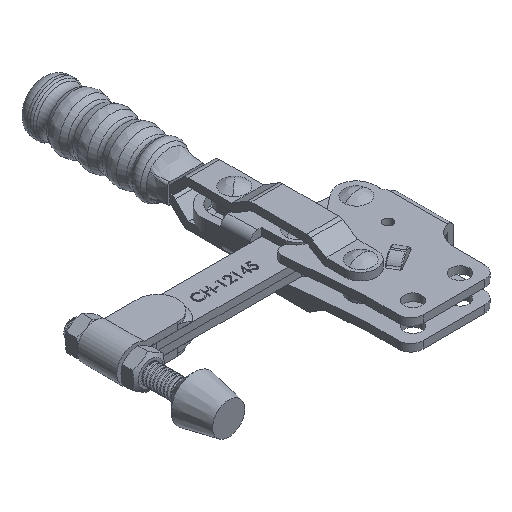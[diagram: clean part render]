
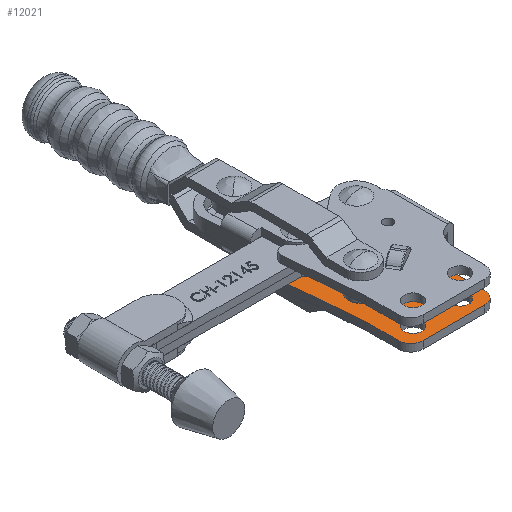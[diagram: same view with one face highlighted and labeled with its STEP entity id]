
A CAD part, isometric view. The second image highlights one B-rep face of the part: STEP entity #12021.
In plain terms, the highlighted planar face has unit normal (0, 0, 1).
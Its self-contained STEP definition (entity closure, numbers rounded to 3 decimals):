
#768=FACE_BOUND('',#2315,.T.);
#769=FACE_BOUND('',#2316,.T.);
#770=FACE_BOUND('',#2317,.T.);
#771=FACE_BOUND('',#2318,.T.);
#772=FACE_BOUND('',#2319,.T.);
#1081=PLANE('',#12894);
#1617=FACE_OUTER_BOUND('',#2314,.T.);
#2314=EDGE_LOOP('',(#10384,#10385,#10386,#10387,#10388,#10389,#10390,#10391,
#10392,#10393,#10394,#10395,#10396,#10397,#10398,#10399));
#2315=EDGE_LOOP('',(#10400,#10401));
#2316=EDGE_LOOP('',(#10402,#10403));
#2317=EDGE_LOOP('',(#10404,#10405));
#2318=EDGE_LOOP('',(#10406,#10407));
#2319=EDGE_LOOP('',(#10408,#10409));
#3253=LINE('',#41925,#4226);
#3262=LINE('',#41967,#4235);
#3266=LINE('',#41976,#4239);
#3268=LINE('',#41982,#4241);
#3270=LINE('',#41986,#4243);
#3272=LINE('',#41990,#4245);
#3274=LINE('',#41994,#4247);
#3275=LINE('',#41998,#4248);
#3276=LINE('',#42000,#4249);
#4226=VECTOR('',#14904,1000.);
#4235=VECTOR('',#14927,1000.);
#4239=VECTOR('',#14937,1000.);
#4241=VECTOR('',#14945,1000.);
#4243=VECTOR('',#14949,1000.);
#4245=VECTOR('',#14953,1000.);
#4247=VECTOR('',#14957,1000.);
#4248=VECTOR('',#14960,1000.);
#4249=VECTOR('',#14963,1000.);
#4581=CIRCLE('',#12798,3.6);
#4582=CIRCLE('',#12799,3.6);
#4589=CIRCLE('',#12808,3.6);
#4590=CIRCLE('',#12809,3.6);
#4591=CIRCLE('',#12811,1.95);
#4592=CIRCLE('',#12812,1.95);
#4595=CIRCLE('',#12816,3.2);
#4596=CIRCLE('',#12817,3.2);
#4599=CIRCLE('',#12821,3.2);
#4600=CIRCLE('',#12822,3.2);
#4617=CIRCLE('',#12844,3.);
#4631=CIRCLE('',#12861,4.);
#4638=CIRCLE('',#12879,9.5);
#4641=CIRCLE('',#12886,7.5);
#4642=CIRCLE('',#12889,7.);
#4643=CIRCLE('',#12895,5.);
#4644=CIRCLE('',#12896,5.);
#5617=VERTEX_POINT('',#41661);
#5618=VERTEX_POINT('',#41663);
#5625=VERTEX_POINT('',#41681);
#5626=VERTEX_POINT('',#41683);
#5627=VERTEX_POINT('',#41687);
#5628=VERTEX_POINT('',#41688);
#5631=VERTEX_POINT('',#41697);
#5632=VERTEX_POINT('',#41698);
#5635=VERTEX_POINT('',#41707);
#5636=VERTEX_POINT('',#41708);
#5655=VERTEX_POINT('',#41756);
#5656=VERTEX_POINT('',#41757);
#5698=VERTEX_POINT('',#41859);
#5699=VERTEX_POINT('',#41860);
#5713=VERTEX_POINT('',#41923);
#5714=VERTEX_POINT('',#41924);
#5717=VERTEX_POINT('',#41942);
#5720=VERTEX_POINT('',#41966);
#5721=VERTEX_POINT('',#41970);
#5722=VERTEX_POINT('',#41974);
#5723=VERTEX_POINT('',#41978);
#5724=VERTEX_POINT('',#41984);
#5725=VERTEX_POINT('',#41988);
#5726=VERTEX_POINT('',#41992);
#5727=VERTEX_POINT('',#41996);
#5728=VERTEX_POINT('',#41997);
#7207=EDGE_CURVE('',#5618,#5617,#4581,.T.);
#7208=EDGE_CURVE('',#5617,#5618,#4582,.T.);
#7217=EDGE_CURVE('',#5626,#5625,#4589,.T.);
#7218=EDGE_CURVE('',#5625,#5626,#4590,.T.);
#7219=EDGE_CURVE('',#5627,#5628,#4591,.T.);
#7220=EDGE_CURVE('',#5628,#5627,#4592,.T.);
#7224=EDGE_CURVE('',#5631,#5632,#4595,.T.);
#7225=EDGE_CURVE('',#5632,#5631,#4596,.T.);
#7229=EDGE_CURVE('',#5635,#5636,#4599,.T.);
#7230=EDGE_CURVE('',#5636,#5635,#4600,.T.);
#7253=EDGE_CURVE('',#5655,#5656,#4617,.T.);
#7298=EDGE_CURVE('',#5698,#5699,#4631,.T.);
#7324=EDGE_CURVE('',#5713,#5714,#3253,.T.);
#7330=EDGE_CURVE('',#5717,#5713,#4638,.T.);
#7338=EDGE_CURVE('',#5720,#5699,#3262,.T.);
#7341=EDGE_CURVE('',#5721,#5720,#4641,.T.);
#7343=EDGE_CURVE('',#5722,#5721,#3266,.T.);
#7345=EDGE_CURVE('',#5723,#5722,#4642,.T.);
#7346=EDGE_CURVE('',#5656,#5723,#3268,.T.);
#7348=EDGE_CURVE('',#5724,#5655,#3270,.T.);
#7350=EDGE_CURVE('',#5725,#5724,#3272,.T.);
#7352=EDGE_CURVE('',#5717,#5726,#3274,.T.);
#7353=EDGE_CURVE('',#5727,#5728,#3275,.T.);
#7354=EDGE_CURVE('',#5727,#5714,#4643,.T.);
#7355=EDGE_CURVE('',#5726,#5698,#3276,.T.);
#7356=EDGE_CURVE('',#5725,#5728,#4644,.T.);
#10384=ORIENTED_EDGE('',*,*,#7353,.F.);
#10385=ORIENTED_EDGE('',*,*,#7354,.T.);
#10386=ORIENTED_EDGE('',*,*,#7324,.F.);
#10387=ORIENTED_EDGE('',*,*,#7330,.F.);
#10388=ORIENTED_EDGE('',*,*,#7352,.T.);
#10389=ORIENTED_EDGE('',*,*,#7355,.T.);
#10390=ORIENTED_EDGE('',*,*,#7298,.T.);
#10391=ORIENTED_EDGE('',*,*,#7338,.F.);
#10392=ORIENTED_EDGE('',*,*,#7341,.F.);
#10393=ORIENTED_EDGE('',*,*,#7343,.F.);
#10394=ORIENTED_EDGE('',*,*,#7345,.F.);
#10395=ORIENTED_EDGE('',*,*,#7346,.F.);
#10396=ORIENTED_EDGE('',*,*,#7253,.F.);
#10397=ORIENTED_EDGE('',*,*,#7348,.F.);
#10398=ORIENTED_EDGE('',*,*,#7350,.F.);
#10399=ORIENTED_EDGE('',*,*,#7356,.T.);
#10400=ORIENTED_EDGE('',*,*,#7219,.T.);
#10401=ORIENTED_EDGE('',*,*,#7220,.T.);
#10402=ORIENTED_EDGE('',*,*,#7224,.T.);
#10403=ORIENTED_EDGE('',*,*,#7225,.T.);
#10404=ORIENTED_EDGE('',*,*,#7229,.T.);
#10405=ORIENTED_EDGE('',*,*,#7230,.T.);
#10406=ORIENTED_EDGE('',*,*,#7207,.T.);
#10407=ORIENTED_EDGE('',*,*,#7208,.T.);
#10408=ORIENTED_EDGE('',*,*,#7217,.T.);
#10409=ORIENTED_EDGE('',*,*,#7218,.T.);
#12021=ADVANCED_FACE('',(#1617,#768,#769,#770,#771,#772),#1081,.F.);
#12798=AXIS2_PLACEMENT_3D('',#41664,#14689,#14690);
#12799=AXIS2_PLACEMENT_3D('',#41665,#14691,#14692);
#12808=AXIS2_PLACEMENT_3D('',#41684,#14711,#14712);
#12809=AXIS2_PLACEMENT_3D('',#41685,#14713,#14714);
#12811=AXIS2_PLACEMENT_3D('',#41689,#14717,#14718);
#12812=AXIS2_PLACEMENT_3D('',#41690,#14719,#14720);
#12816=AXIS2_PLACEMENT_3D('',#41699,#14728,#14729);
#12817=AXIS2_PLACEMENT_3D('',#41700,#14730,#14731);
#12821=AXIS2_PLACEMENT_3D('',#41709,#14739,#14740);
#12822=AXIS2_PLACEMENT_3D('',#41710,#14741,#14742);
#12844=AXIS2_PLACEMENT_3D('',#41758,#14791,#14792);
#12861=AXIS2_PLACEMENT_3D('',#41861,#14852,#14853);
#12879=AXIS2_PLACEMENT_3D('',#41944,#14911,#14912);
#12886=AXIS2_PLACEMENT_3D('',#41972,#14932,#14933);
#12889=AXIS2_PLACEMENT_3D('',#41980,#14941,#14942);
#12894=AXIS2_PLACEMENT_3D('',#41995,#14958,#14959);
#12895=AXIS2_PLACEMENT_3D('',#41999,#14961,#14962);
#12896=AXIS2_PLACEMENT_3D('',#42001,#14964,#14965);
#14689=DIRECTION('center_axis',(0.,0.,-1.));
#14690=DIRECTION('ref_axis',(-1.,0.,0.));
#14691=DIRECTION('center_axis',(0.,0.,-1.));
#14692=DIRECTION('ref_axis',(-1.,0.,0.));
#14711=DIRECTION('center_axis',(0.,0.,-1.));
#14712=DIRECTION('ref_axis',(-1.,0.,0.));
#14713=DIRECTION('center_axis',(0.,0.,-1.));
#14714=DIRECTION('ref_axis',(-1.,0.,0.));
#14717=DIRECTION('center_axis',(0.,0.,-1.));
#14718=DIRECTION('ref_axis',(-1.,0.,0.));
#14719=DIRECTION('center_axis',(0.,0.,-1.));
#14720=DIRECTION('ref_axis',(-1.,0.,0.));
#14728=DIRECTION('center_axis',(0.,0.,-1.));
#14729=DIRECTION('ref_axis',(-1.,0.,0.));
#14730=DIRECTION('center_axis',(0.,0.,-1.));
#14731=DIRECTION('ref_axis',(-1.,0.,0.));
#14739=DIRECTION('center_axis',(0.,0.,-1.));
#14740=DIRECTION('ref_axis',(-1.,0.,0.));
#14741=DIRECTION('center_axis',(0.,0.,-1.));
#14742=DIRECTION('ref_axis',(-1.,0.,0.));
#14791=DIRECTION('center_axis',(0.,0.,-1.));
#14792=DIRECTION('ref_axis',(-1.,0.,0.));
#14852=DIRECTION('center_axis',(0.,0.,-1.));
#14853=DIRECTION('ref_axis',(-1.,0.,0.));
#14904=DIRECTION('',(0.,-1.,0.));
#14911=DIRECTION('center_axis',(0.,0.,1.));
#14912=DIRECTION('ref_axis',(-1.,0.,0.));
#14927=DIRECTION('',(0.,-1.,0.));
#14932=DIRECTION('center_axis',(0.,0.,-1.));
#14933=DIRECTION('ref_axis',(-1.,0.,0.));
#14937=DIRECTION('',(0.792,0.611,0.));
#14941=DIRECTION('center_axis',(0.,0.,1.));
#14942=DIRECTION('ref_axis',(-1.,0.,0.));
#14945=DIRECTION('',(0.677,-0.736,0.));
#14949=DIRECTION('',(-0.09,0.996,0.));
#14953=DIRECTION('',(0.,1.,0.));
#14957=DIRECTION('',(0.,1.,0.));
#14958=DIRECTION('center_axis',(0.,0.,-1.));
#14959=DIRECTION('ref_axis',(-1.,0.,0.));
#14960=DIRECTION('',(-1.,0.,0.));
#14961=DIRECTION('center_axis',(0.,0.,1.));
#14962=DIRECTION('ref_axis',(-1.,0.,0.));
#14963=DIRECTION('',(1.,0.,0.));
#14964=DIRECTION('center_axis',(0.,0.,1.));
#14965=DIRECTION('ref_axis',(-1.,0.,0.));
#41661=CARTESIAN_POINT('',(-30.5,-8.1,3.));
#41663=CARTESIAN_POINT('',(-23.3,-8.1,3.));
#41664=CARTESIAN_POINT('Origin',(-26.9,-8.1,3.));
#41665=CARTESIAN_POINT('Origin',(-26.9,-8.1,3.));
#41681=CARTESIAN_POINT('',(-11.5,-8.1,3.));
#41683=CARTESIAN_POINT('',(-4.3,-8.1,3.));
#41684=CARTESIAN_POINT('Origin',(-7.9,-8.1,3.));
#41685=CARTESIAN_POINT('Origin',(-7.9,-8.1,3.));
#41687=CARTESIAN_POINT('',(-6.55,24.2,3.));
#41688=CARTESIAN_POINT('',(-2.65,24.2,3.));
#41689=CARTESIAN_POINT('Origin',(-4.6,24.2,3.));
#41690=CARTESIAN_POINT('Origin',(-4.6,24.2,3.));
#41697=CARTESIAN_POINT('',(-29.4,13.7,3.));
#41698=CARTESIAN_POINT('',(-23.,13.7,3.));
#41699=CARTESIAN_POINT('Origin',(-26.2,13.7,3.));
#41700=CARTESIAN_POINT('Origin',(-26.2,13.7,3.));
#41707=CARTESIAN_POINT('',(-5.1,39.7,3.));
#41708=CARTESIAN_POINT('',(1.3,39.7,3.));
#41709=CARTESIAN_POINT('Origin',(-1.9,39.7,3.));
#41710=CARTESIAN_POINT('Origin',(-1.9,39.7,3.));
#41756=CARTESIAN_POINT('',(-37.691,34.031,3.));
#41757=CARTESIAN_POINT('',(-32.494,36.33,3.));
#41758=CARTESIAN_POINT('Origin',(-34.703,34.3,3.));
#41859=CARTESIAN_POINT('',(9.6,34.,3.));
#41860=CARTESIAN_POINT('',(5.6,38.,3.));
#41861=CARTESIAN_POINT('Origin',(9.6,38.,3.));
#41923=CARTESIAN_POINT('',(0.,2.5,3.));
#41924=CARTESIAN_POINT('',(0.,-10.2,3.));
#41925=CARTESIAN_POINT('',(0.,0.,3.));
#41942=CARTESIAN_POINT('',(6.6,11.547,3.));
#41944=CARTESIAN_POINT('Origin',(9.5,2.5,3.));
#41966=CARTESIAN_POINT('',(5.6,39.7,3.));
#41967=CARTESIAN_POINT('',(5.6,39.7,3.));
#41970=CARTESIAN_POINT('',(-6.481,45.639,3.));
#41972=CARTESIAN_POINT('Origin',(-1.9,39.7,3.));
#41974=CARTESIAN_POINT('',(-21.625,33.957,3.));
#41976=CARTESIAN_POINT('',(-21.625,33.957,3.));
#41978=CARTESIAN_POINT('',(-31.053,34.763,3.));
#41980=CARTESIAN_POINT('Origin',(-25.9,39.5,3.));
#41982=CARTESIAN_POINT('',(-32.494,36.33,3.));
#41984=CARTESIAN_POINT('',(-34.9,3.,3.));
#41986=CARTESIAN_POINT('',(-34.9,3.,3.));
#41988=CARTESIAN_POINT('',(-34.9,-10.2,3.));
#41990=CARTESIAN_POINT('',(-34.9,0.,3.));
#41992=CARTESIAN_POINT('',(6.6,34.,3.));
#41994=CARTESIAN_POINT('',(6.6,0.,3.));
#41995=CARTESIAN_POINT('Origin',(-37.703,0.,3.));
#41996=CARTESIAN_POINT('',(-5.,-15.2,3.));
#41997=CARTESIAN_POINT('',(-29.9,-15.2,3.));
#41998=CARTESIAN_POINT('',(-34.9,-15.2,3.));
#41999=CARTESIAN_POINT('Origin',(-5.,-10.2,3.));
#42000=CARTESIAN_POINT('',(-2.4,34.,3.));
#42001=CARTESIAN_POINT('Origin',(-29.9,-10.2,3.));
